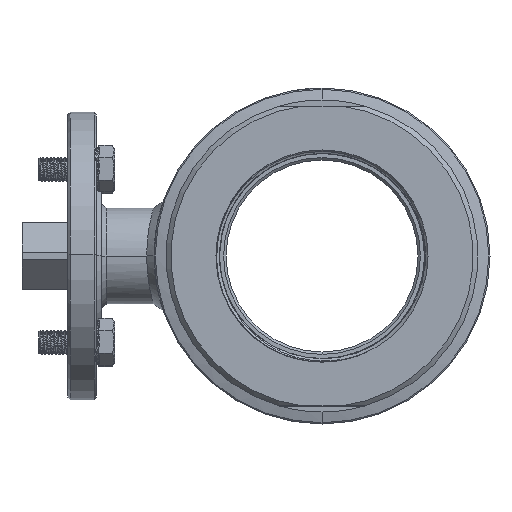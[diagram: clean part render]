
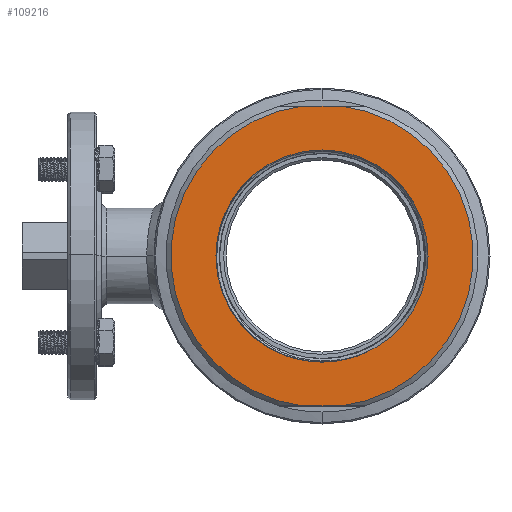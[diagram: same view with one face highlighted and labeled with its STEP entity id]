
A CAD part, left-side view. The second image highlights one B-rep face of the part: STEP entity #109216.
In plain terms, the highlighted planar face has unit normal (-1, 0, 0).
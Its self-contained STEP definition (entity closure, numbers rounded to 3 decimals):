
#51098=DIRECTION('',(0.,-1.,0.));
#51099=VECTOR('',#51098,15.843);
#51100=CARTESIAN_POINT('',(-75.,7.921,
-62.5));
#51101=LINE('',#51100,#51099);
#51105=CARTESIAN_POINT('',(-75.,0.,0.));
#51106=DIRECTION('',(1.,0.,0.));
#51107=DIRECTION('',(0.,0.126,-0.992));
#51108=AXIS2_PLACEMENT_3D('',#51105,#51106,#51107);
#51113=DIRECTION('',(0.,-1.,0.));
#51114=VECTOR('',#51113,15.843);
#51115=CARTESIAN_POINT('',(-75.,7.921,
62.5));
#51116=LINE('',#51115,#51114);
#51120=CARTESIAN_POINT('',(-75.,0.,0.));
#51121=DIRECTION('',(1.,0.,0.));
#51122=DIRECTION('',(0.,-0.126,0.992));
#51123=AXIS2_PLACEMENT_3D('',#51120,#51121,#51122);
#51128=CARTESIAN_POINT('',(-75.,0.,0.));
#51129=DIRECTION('',(-1.,0.,0.));
#51130=DIRECTION('',(0.,0.,-1.));
#51131=AXIS2_PLACEMENT_3D('',#51128,#51129,#51130);
#51136=CARTESIAN_POINT('',(-75.,0.,0.));
#51137=DIRECTION('',(-1.,0.,0.));
#51138=DIRECTION('',(0.,0.,1.));
#51139=AXIS2_PLACEMENT_3D('',#51136,#51137,#51138);
#51190=CARTESIAN_POINT('',(-75.,7.921,
62.5));
#65511=CARTESIAN_POINT('',(-75.,0.,-44.2));
#65512=CARTESIAN_POINT('',(-75.,0.,44.2));
#65513=VERTEX_POINT('',#65511);
#65514=VERTEX_POINT('',#65512);
#65521=CARTESIAN_POINT('',(-75.,7.921,
-62.5));
#65522=CARTESIAN_POINT('',(-75.,-7.921,
-62.5));
#65523=VERTEX_POINT('',#65521);
#65524=VERTEX_POINT('',#65522);
#65529=CARTESIAN_POINT('',(-75.,-7.921,62.5));
#65530=VERTEX_POINT('',#65529);
#65540=VERTEX_POINT('',#51190);
#109197=CARTESIAN_POINT('',(-75.,0.,0.));
#109198=DIRECTION('',(1.,0.,0.));
#109199=DIRECTION('',(0.,0.,-1.));
#109200=AXIS2_PLACEMENT_3D('',#109197,#109198,#109199);
#109201=PLANE('',#109200);
#109203=ORIENTED_EDGE('',*,*,#109202,.F.);
#109205=ORIENTED_EDGE('',*,*,#109204,.T.);
#109207=ORIENTED_EDGE('',*,*,#109206,.T.);
#109209=ORIENTED_EDGE('',*,*,#109208,.T.);
#109210=EDGE_LOOP('',(#109203,#109205,#109207,#109209));
#109211=FACE_OUTER_BOUND('',#109210,.F.);
#109212=ORIENTED_EDGE('',*,*,#109190,.T.);
#109213=ORIENTED_EDGE('',*,*,#109173,.T.);
#109214=EDGE_LOOP('',(#109212,#109213));
#109215=FACE_BOUND('',#109214,.F.);
#109216=ADVANCED_FACE('',(#109211,#109215),#109201,.F.);
#51109=CIRCLE('',#51108,63.);
#51124=CIRCLE('',#51123,63.);
#51132=CIRCLE('',#51131,44.2);
#51140=CIRCLE('',#51139,44.2);
#109173=EDGE_CURVE('',#65514,#65513,#51140,.T.);
#109190=EDGE_CURVE('',#65513,#65514,#51132,.T.);
#109202=EDGE_CURVE('',#65523,#65524,#51101,.T.);
#109204=EDGE_CURVE('',#65523,#65540,#51109,.T.);
#109206=EDGE_CURVE('',#65540,#65530,#51116,.T.);
#109208=EDGE_CURVE('',#65530,#65524,#51124,.T.);
